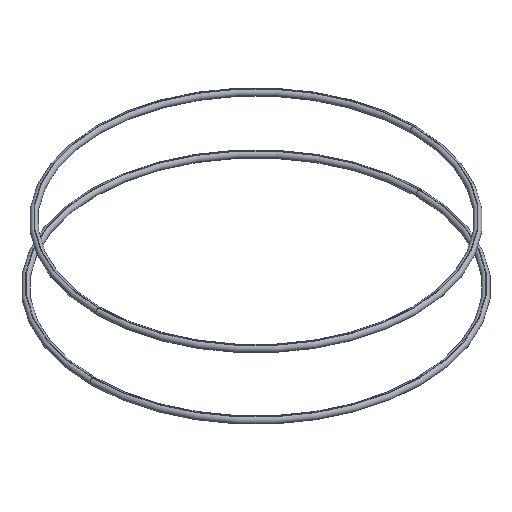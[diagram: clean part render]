
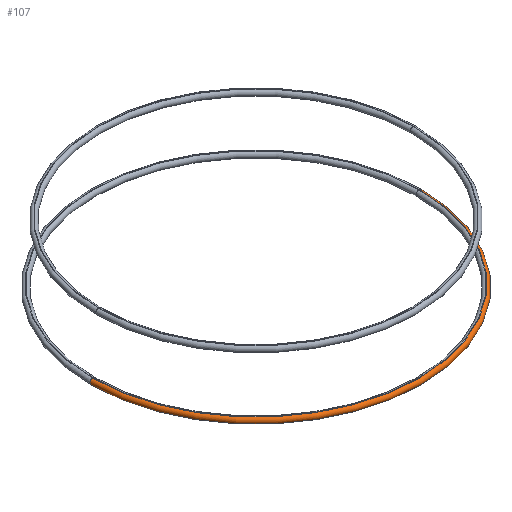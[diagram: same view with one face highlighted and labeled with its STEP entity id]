
A CAD part, isometric view. The second image highlights one B-rep face of the part: STEP entity #107.
In plain terms, the highlighted toroidal (fillet/blend) face has major radius 89.789 mm and minor radius 1.524 mm.
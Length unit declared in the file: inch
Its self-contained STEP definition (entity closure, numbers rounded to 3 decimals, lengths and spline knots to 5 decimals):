
#7=CARTESIAN_POINT('',(3.535,0.,0.06));
#8=DIRECTION('',(0.,1.,0.));
#9=DIRECTION('',(0.,0.,1.));
#10=AXIS2_PLACEMENT_3D('',#7,#8,#9);
#12=CARTESIAN_POINT('',(-3.535,0.,0.06));
#13=DIRECTION('',(0.,-1.,0.));
#14=DIRECTION('',(0.,0.,1.));
#15=AXIS2_PLACEMENT_3D('',#12,#13,#14);
#17=CARTESIAN_POINT('',(0.,0.,0.12));
#18=DIRECTION('',(0.,0.,-1.));
#19=DIRECTION('',(1.,0.,0.));
#20=AXIS2_PLACEMENT_3D('',#17,#18,#19);
#22=CARTESIAN_POINT('',(0.,0.,0.));
#23=DIRECTION('',(0.,0.,-1.));
#24=DIRECTION('',(1.,0.,0.));
#25=AXIS2_PLACEMENT_3D('',#22,#23,#24);
#62=CARTESIAN_POINT('',(3.535,0.,0.12));
#63=CARTESIAN_POINT('',(3.535,0.,0.));
#64=VERTEX_POINT('',#62);
#65=VERTEX_POINT('',#63);
#70=CARTESIAN_POINT('',(-3.535,0.,0.12));
#71=CARTESIAN_POINT('',(-3.535,0.,0.));
#72=VERTEX_POINT('',#70);
#73=VERTEX_POINT('',#71);
#94=CARTESIAN_POINT('',(0.,0.,0.06));
#95=DIRECTION('',(0.,0.,1.));
#96=DIRECTION('',(-1.,0.,0.));
#97=AXIS2_PLACEMENT_3D('',#94,#95,#96);
#98=TOROIDAL_SURFACE('',#97,3.535,0.06);
#99=ORIENTED_EDGE('',*,*,#83,.T.);
#101=ORIENTED_EDGE('',*,*,#100,.T.);
#102=ORIENTED_EDGE('',*,*,#87,.F.);
#104=ORIENTED_EDGE('',*,*,#103,.F.);
#105=EDGE_LOOP('',(#99,#101,#102,#104));
#106=FACE_OUTER_BOUND('',#105,.F.);
#107=ADVANCED_FACE('',(#106),#98,.T.);
#11=CIRCLE('',#10,0.06);
#16=CIRCLE('',#15,0.06);
#21=CIRCLE('',#20,3.535);
#26=CIRCLE('',#25,3.535);
#83=EDGE_CURVE('',#64,#65,#11,.T.);
#87=EDGE_CURVE('',#72,#73,#16,.T.);
#100=EDGE_CURVE('',#65,#73,#26,.T.);
#103=EDGE_CURVE('',#64,#72,#21,.T.);
